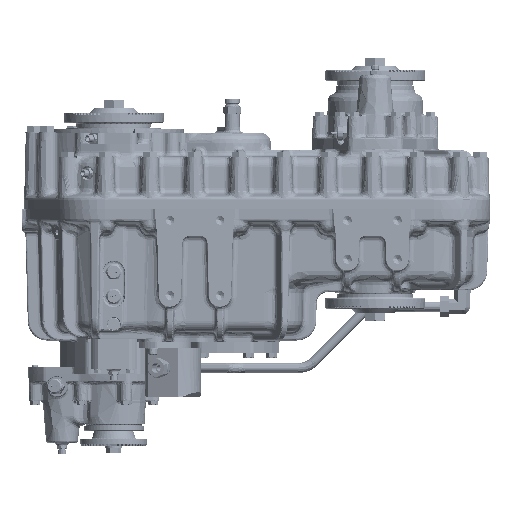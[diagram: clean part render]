
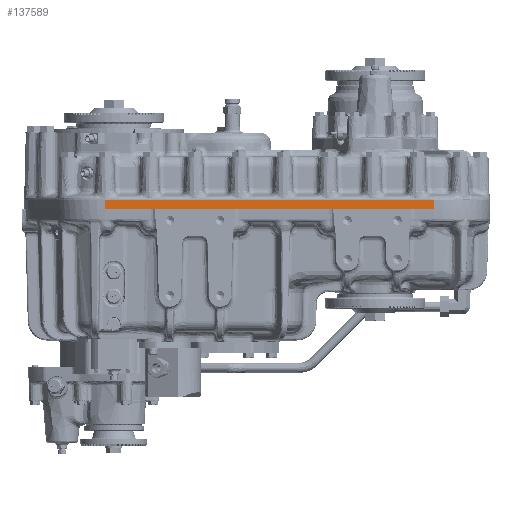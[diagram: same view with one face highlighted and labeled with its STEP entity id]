
A CAD part, left-side view. The second image highlights one B-rep face of the part: STEP entity #137589.
In plain terms, the highlighted free-form (B-spline) face has degree [1, 1] with [2, 2] control points.
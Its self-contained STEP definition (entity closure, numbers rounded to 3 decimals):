
#74239=CARTESIAN_POINT('V1889',(-216.541,
   16.098,17.521));
#74240=VERTEX_POINT('V1889',#74239);
#132381=CARTESIAN_POINT('V1895',(-216.541,
   -576.5,17.521));
#132382=VERTEX_POINT('V1895',#132381);
#132383=CARTESIAN_POINT('E2702',(-216.541,
   -576.5,17.521));
#132384=CARTESIAN_POINT('E2702',(-216.541,
   16.098,17.521));
#132385=B_SPLINE_CURVE_WITH_KNOTS('E2702',1,(#132383,#132384),
   .POLYLINE_FORM.,.F.,.U.,(2,2),(2.0,78.992),
   .UNSPECIFIED.);
#132386=EDGE_CURVE('E2702',#132382,#74240,#132385,.T.);
#137530=CARTESIAN_POINT('V2148',(-217.0,-576.5,0.0));
#137531=VERTEX_POINT('V2148',#137530);
#137560=CARTESIAN_POINT('E3571',(-217.0,-576.5,
   0.));
#137561=CARTESIAN_POINT('E3571',(-216.541,
   -576.5,17.521));
#137562=B_SPLINE_CURVE_WITH_KNOTS('E3571',1,(#137560,#137561),
   .POLYLINE_FORM.,.F.,.U.,(2,2),(0.186,1.0),
   .UNSPECIFIED.);
#137563=EDGE_CURVE('E3571',#137531,#132382,#137562,.T.);
#137568=CARTESIAN_POINT('F1338',(-217.107,
   16.198,-4.1));
#137569=CARTESIAN_POINT('F1338',(-217.107,
   -576.6,-4.1));
#137570=CARTESIAN_POINT('F1338',(-216.421,
   16.198,22.1));
#137571=CARTESIAN_POINT('F1338',(-216.421,
   -576.6,22.1));
#137572=B_SPLINE_SURFACE_WITH_KNOTS('F1338',1,1,((#137568,#137570),
   (#137569,#137571)),.PLANE_SURF.,.F.,.F.,.U.,(2,2),(2,2),(0.0,
   22.618),(0.0,1.0),.UNSPECIFIED.);
#137573=CARTESIAN_POINT('V2147',(-217.0,16.098,0.0));
#137574=VERTEX_POINT('V2147',#137573);
#137575=CARTESIAN_POINT('E3570',(-217.0,16.098,0.0));
#137576=CARTESIAN_POINT('E3570',(-217.0,-576.5,0.0));
#137577=B_SPLINE_CURVE_WITH_KNOTS('E3570',1,(#137575,#137576),
   .POLYLINE_FORM.,.F.,.U.,(2,2),(0.,
   1.),.UNSPECIFIED.);
#137578=EDGE_CURVE('E3570',#137574,#137531,#137577,.T.);
#137579=ORIENTED_EDGE('E3570',*,*,#137578,.T.);
#137580=ORIENTED_EDGE('F1339',*,*,#137563,.T.);
#137581=ORIENTED_EDGE('E2702',*,*,#132386,.T.);
#137582=CARTESIAN_POINT('E3568',(-217.0,16.098,
   0.));
#137583=CARTESIAN_POINT('E3568',(-216.541,
   16.098,17.521));
#137584=B_SPLINE_CURVE_WITH_KNOTS('E3568',1,(#137582,#137583),
   .POLYLINE_FORM.,.F.,.U.,(2,2),(0.186,1.0),
   .UNSPECIFIED.);
#137585=EDGE_CURVE('E3568',#137574,#74240,#137584,.T.);
#137586=ORIENTED_EDGE('E3568',*,*,#137585,.F.);
#137587=EDGE_LOOP('F1338',(#137579,#137580,#137581,#137586));
#137588=FACE_OUTER_BOUND('F1338',#137587,.T.);
#137589=ADVANCED_FACE('F1338',(#137588),#137572,.T.);
